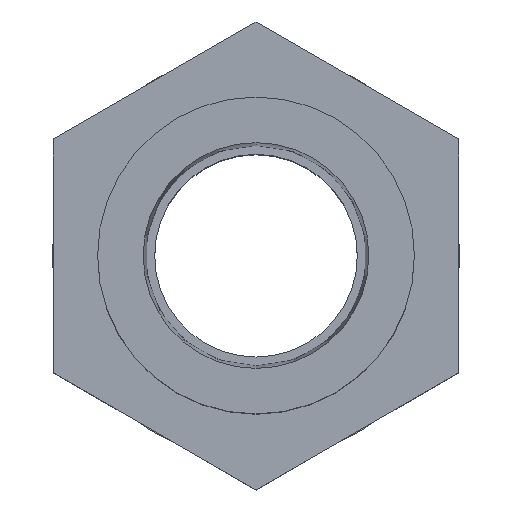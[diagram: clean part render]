
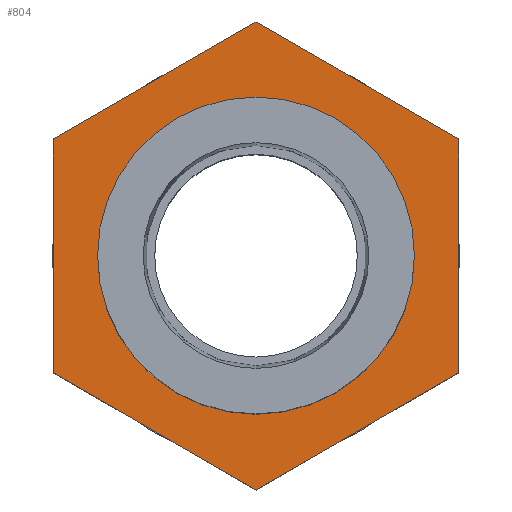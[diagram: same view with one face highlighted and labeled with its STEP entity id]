
A CAD part, top view. The second image highlights one B-rep face of the part: STEP entity #804.
In plain terms, the highlighted planar face has unit normal (0, 0, 1).
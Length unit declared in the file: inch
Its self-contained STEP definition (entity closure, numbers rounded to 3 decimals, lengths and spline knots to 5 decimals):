
#175=DIRECTION('',(0.866,0.5,0.));
#176=VECTOR('',#175,0.64952);
#177=CARTESIAN_POINT('',(-0.5625,0.32476,0.195));
#178=LINE('',#177,#176);
#179=DIRECTION('',(0.866,-0.5,0.));
#180=VECTOR('',#179,0.64952);
#181=CARTESIAN_POINT('',(0.,0.64952,0.195));
#182=LINE('',#181,#180);
#183=DIRECTION('',(0.,-1.,0.));
#184=VECTOR('',#183,0.64952);
#185=CARTESIAN_POINT('',(0.5625,0.32476,0.195));
#186=LINE('',#185,#184);
#187=DIRECTION('',(-0.866,-0.5,0.));
#188=VECTOR('',#187,0.64952);
#189=CARTESIAN_POINT('',(0.5625,-0.32476,0.195));
#190=LINE('',#189,#188);
#191=DIRECTION('',(-0.866,0.5,0.));
#192=VECTOR('',#191,0.64952);
#193=CARTESIAN_POINT('',(0.,-0.64952,0.195));
#194=LINE('',#193,#192);
#195=DIRECTION('',(0.,1.,0.));
#196=VECTOR('',#195,0.64952);
#197=CARTESIAN_POINT('',(-0.5625,-0.32476,0.195));
#198=LINE('',#197,#196);
#199=CARTESIAN_POINT('',(0.,0.,0.195));
#200=DIRECTION('',(0.,0.,1.));
#201=DIRECTION('',(0.,-1.,0.));
#202=AXIS2_PLACEMENT_3D('',#199,#200,#201);
#204=CARTESIAN_POINT('',(0.,0.,0.195));
#205=DIRECTION('',(0.,0.,1.));
#206=DIRECTION('',(0.,1.,0.));
#207=AXIS2_PLACEMENT_3D('',#204,#205,#206);
#473=CARTESIAN_POINT('',(0.,0.44,0.195));
#474=CARTESIAN_POINT('',(0.,-0.44,0.195));
#475=VERTEX_POINT('',#473);
#476=VERTEX_POINT('',#474);
#477=CARTESIAN_POINT('',(-0.5625,0.32476,0.195));
#478=CARTESIAN_POINT('',(0.,0.64952,0.195));
#479=VERTEX_POINT('',#477);
#480=VERTEX_POINT('',#478);
#481=CARTESIAN_POINT('',(0.5625,0.32476,0.195));
#482=VERTEX_POINT('',#481);
#483=CARTESIAN_POINT('',(0.5625,-0.32476,0.195));
#484=VERTEX_POINT('',#483);
#485=CARTESIAN_POINT('',(0.,-0.64952,0.195));
#486=VERTEX_POINT('',#485);
#487=CARTESIAN_POINT('',(-0.5625,-0.32476,0.195));
#488=VERTEX_POINT('',#487);
#785=CARTESIAN_POINT('',(0.,0.,0.195));
#786=DIRECTION('',(0.,0.,1.));
#787=DIRECTION('',(1.,0.,0.));
#788=AXIS2_PLACEMENT_3D('',#785,#786,#787);
#789=PLANE('',#788);
#790=ORIENTED_EDGE('',*,*,#662,.T.);
#791=ORIENTED_EDGE('',*,*,#690,.T.);
#792=ORIENTED_EDGE('',*,*,#730,.T.);
#793=ORIENTED_EDGE('',*,*,#768,.T.);
#794=ORIENTED_EDGE('',*,*,#582,.T.);
#795=ORIENTED_EDGE('',*,*,#623,.T.);
#796=EDGE_LOOP('',(#790,#791,#792,#793,#794,#795));
#797=FACE_OUTER_BOUND('',#796,.F.);
#799=ORIENTED_EDGE('',*,*,#798,.T.);
#801=ORIENTED_EDGE('',*,*,#800,.T.);
#802=EDGE_LOOP('',(#799,#801));
#803=FACE_BOUND('',#802,.F.);
#804=ADVANCED_FACE('',(#797,#803),#789,.T.);
#203=CIRCLE('',#202,0.44);
#208=CIRCLE('',#207,0.44);
#582=EDGE_CURVE('',#486,#488,#194,.T.);
#623=EDGE_CURVE('',#488,#479,#198,.T.);
#662=EDGE_CURVE('',#479,#480,#178,.T.);
#690=EDGE_CURVE('',#480,#482,#182,.T.);
#730=EDGE_CURVE('',#482,#484,#186,.T.);
#768=EDGE_CURVE('',#484,#486,#190,.T.);
#798=EDGE_CURVE('',#476,#475,#203,.T.);
#800=EDGE_CURVE('',#475,#476,#208,.T.);
